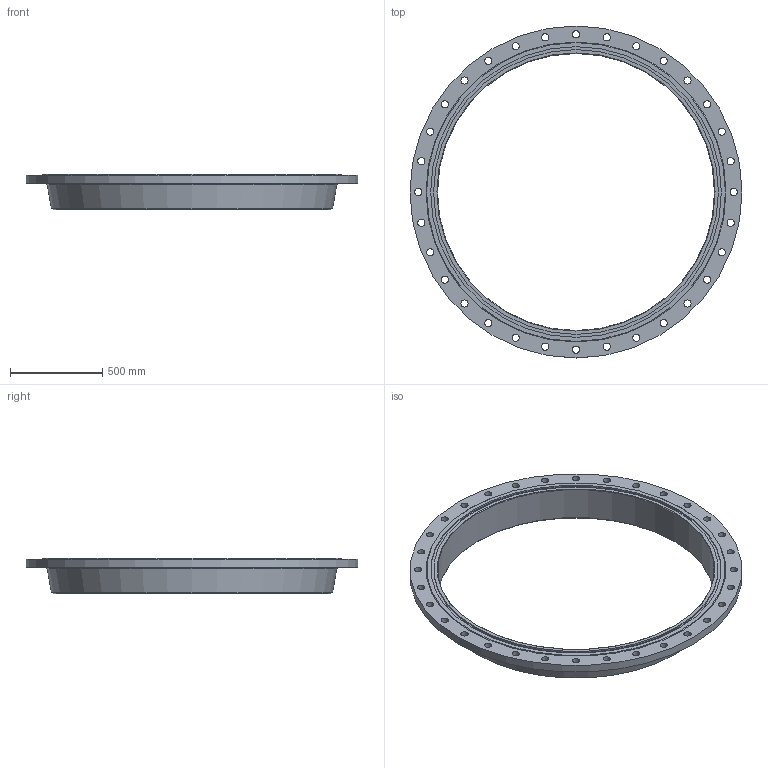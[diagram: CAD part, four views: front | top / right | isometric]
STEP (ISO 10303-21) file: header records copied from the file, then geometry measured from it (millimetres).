
FILE_DESCRIPTION(/* description */ (''),/* implementation_level */ '2;1');
FILE_NAME(/* name */ 'C:\Users\D\Documents\Inventor\HP\JIS\フランジ\水道用フランジF12\GF\ffws_gf_1500_2.stp',/* time_stamp */ '2024-08-28T10:10:26+09:00',/* author */ ('D'),/* organization */ (''),/* preprocessor_version */ 'ST-DEVELOPER v18',/* originating_system */ 'Autodesk Inventor 2020',/* authorisation */ '');
FILE_SCHEMA (('AUTOMOTIVE_DESIGN { 1 0 10303 214 3 1 1 }'));
Length unit declared in the file: millimetre
Products named in the file (1): ffws_rf_80
Bounding box: 1800 x 1800 x 190 mm (x, y, z)
Volume: 48993964.4 mm3; surface area: 3424165.9 mm2
Topology: 1 solids, 1 shells, 47 faces, 164 edges, 123 vertices
Faces by surface type: cylinder 36, plane 6, cone 3, torus 2
Full cylindrical faces by diameter (mm): 39 x32, 1502 x1, 1544 x1, 1576 x1, 1800 x1
Entity records: 2084 total; most frequent: DIRECTION 385, CARTESIAN_POINT 335, ORIENTED_EDGE 328, AXIS2_PLACEMENT_3D 173, EDGE_CURVE 164, CIRCLE 125, VERTEX_POINT 123, EDGE_LOOP 117
